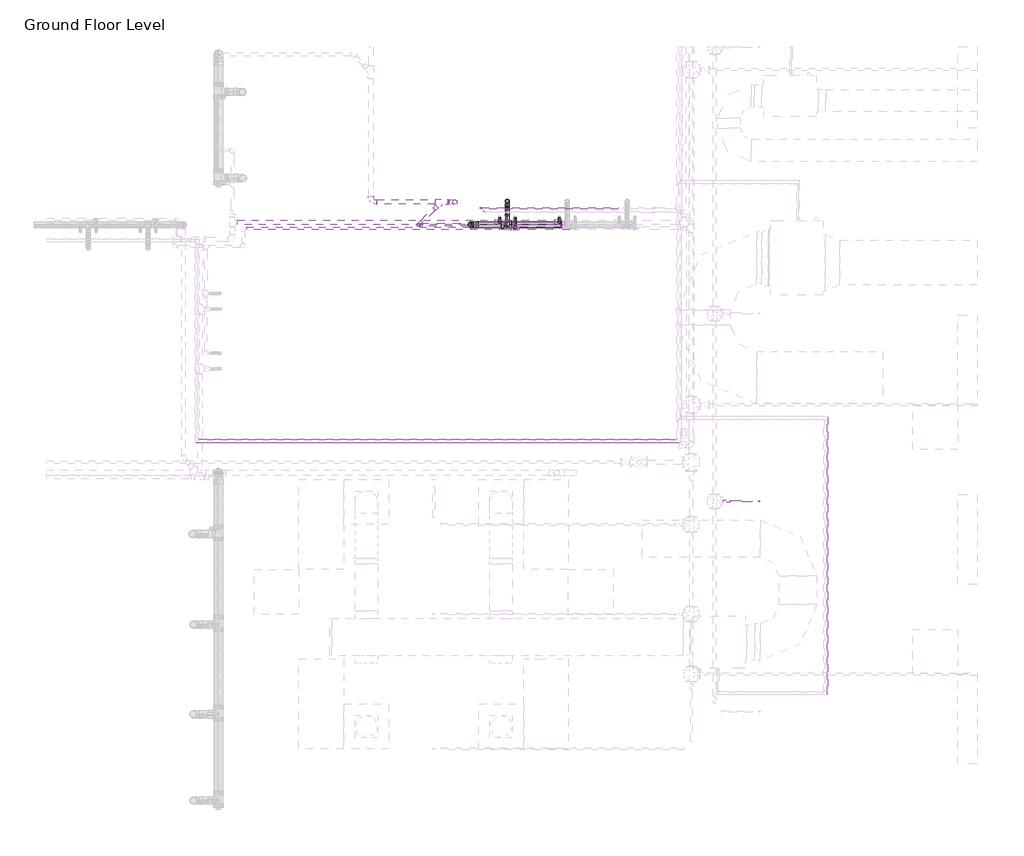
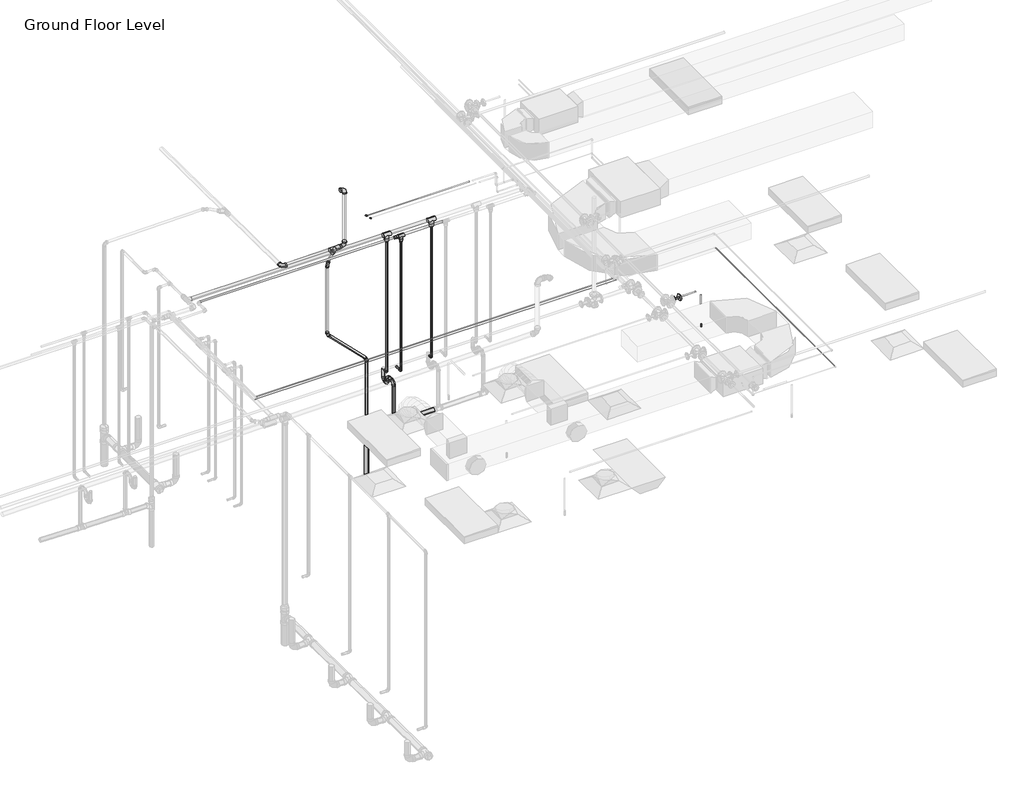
# One storey, part 15 of 66: 32 pipe segments, 28 pipe fittings, 1 fire suppression terminal.
"""IFC4 building model written with IfcOpenShell, lengths in millimetres."""

from ifc_helpers import new_model, si_unit, point, frame, frame_2d, origin, place, context, project, spatial, circle_curve, trimmed, segment, composite_curve, outline, extrude, transform, mapped, element, save
from components import m_sprinkler_pendent_15_mm_pendent_06fcbd8e, m_bend_pvc_sch_40_dwv_standard_1e7bdcc1, m_bend_pvc_sch_40_dwv_standard_776e50c4, m_bend_pvc_sch_40_dwv_standard_aab78995, m_bend_pvc_sch_40_dwv_standard_ec028db0, m_bend_pvc_sch_40_dwv_standard_952ced8a, m_bend_pvc_sch_40_dwv_standard_1eaeee76, m_bend_pvc_sch_40_dwv_standard_35448a73, m_bend_pvc_sch_40_dwv_standard_15ff6dcd, m_elbow_generic_standard_bb5ffebe, m_elbow_generic_standard_f0c60a04, m_reducer_flanged_cs_class_150_standard_d42b2106, m_reducer_pvc_sch_40_dwv_standard_b84ad399, m_reducer_pvc_sch_40_dwv_standard_7e12a7c1, m_tee_pvc_sch_40_standard_19f5fb6d, m_tee_reducing_sanitary_pvc_sch_40_dwv_standard_21d2848c, m_tee_reducing_sanitary_pvc_sch_40_dwv_standard_b574f8c1, standard_b266ab3f, standard_08ff6011, standard_d0d0b892, standard_cd25fed3, standard_83629b21, standard_9d5ac8af

model = new_model("IFC4")

# Units and contexts
model_context = context("Model", 3, world=origin())
ifc_project = project(units=[si_unit("LENGTHUNIT", "METRE", prefix="MILLI")], contexts=[model_context])

# Site, building, storey
site = spatial("IfcSite", under=ifc_project)
building = spatial("IfcBuilding", under=site)
storey = spatial("IfcBuildingStorey", under=building, Name="Ground Floor Level", Elevation=900.0)

# Fire suppression terminal
placement = place(None, origin())
m_sprinkler_pendent_15_mm_pendent_shape = m_sprinkler_pendent_15_mm_pendent_06fcbd8e(model_context)
element("IfcFireSuppressionTerminal", 1, ObjectType="M_Sprinkler - Pendent : 15 mm Pendent", at=placement, inside=storey, context=model_context, shape_type="MappedRepresentation", body=[
    mapped(m_sprinkler_pendent_15_mm_pendent_shape, transform((6592.5481019, -36555.4049984, 3650.0), x_axis=(1.0, 0.0, 0.0), y_axis=(0.0, 1.0, 0.0), z_axis=(0.0, 0.0, 1.0))),
])

# Pipe fittings
m_bend_pvc_sch_40_dwv_standard_shape = m_bend_pvc_sch_40_dwv_standard_1e7bdcc1(model_context)
element("IfcPipeFitting", 2, ObjectType="M_Bend - PVC - Sch 40 - DWV : Standard", at=placement, inside=storey, context=model_context, shape_type="MappedRepresentation", body=[
    mapped(m_bend_pvc_sch_40_dwv_standard_shape, transform((3226.7846789, -32541.2164355, 1350.0), x_axis=(0.0, 0.0, -1.0), y_axis=(0.0, -1.0, 0.0), z_axis=(-1.0, 0.0, 0.0))),
])
m_bend_pvc_sch_40_dwv_standard_2_shape = m_bend_pvc_sch_40_dwv_standard_776e50c4(model_context)
element("IfcPipeFitting", 3, ObjectType="M_Bend - PVC - Sch 40 - DWV : Standard", at=placement, inside=storey, context=model_context, shape_type="MappedRepresentation", body=[
    mapped(m_bend_pvc_sch_40_dwv_standard_2_shape, transform((3226.7846789, -32676.2164355, 1348.45), x_axis=(0.0, -0.9999500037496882, -0.009999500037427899), y_axis=(0.0, -0.009999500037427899, 0.9999500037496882), z_axis=(-1.0, 0.0, 0.0))),
])
element("IfcPipeFitting", 4, ObjectType="M_Bend - PVC - Sch 40 - DWV : Standard", at=placement, inside=storey, context=model_context, shape_type="MappedRepresentation", body=[
    mapped(m_bend_pvc_sch_40_dwv_standard_2_shape, transform((3226.7846789, -32676.2164355, 1490.0), x_axis=(0.0, 0.0, 1.0), y_axis=(0.0, -1.0, 0.0), z_axis=(1.0, 0.0, 0.0))),
])
m_bend_pvc_sch_40_dwv_standard_3_shape = m_bend_pvc_sch_40_dwv_standard_aab78995(model_context)
element("IfcPipeFitting", 5, ObjectType="M_Bend - PVC - Sch 40 - DWV : Standard", at=placement, inside=storey, context=model_context, shape_type="MappedRepresentation", body=[
    mapped(m_bend_pvc_sch_40_dwv_standard_3_shape, transform((3226.7846789, -32858.7119065, 1488.4250453), x_axis=(0.0, -0.999968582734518, -0.007926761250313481), y_axis=(0.0, 0.007926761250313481, -0.999968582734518), z_axis=(1.0, 0.0, 0.0))),
])
m_bend_pvc_sch_40_dwv_standard_4_shape = m_bend_pvc_sch_40_dwv_standard_ec028db0(model_context)
element("IfcPipeFitting", 6, ObjectType="M_Bend - PVC - Sch 40 - DWV : Standard", at=placement, inside=storey, context=model_context, shape_type="MappedRepresentation", body=[
    mapped(m_bend_pvc_sch_40_dwv_standard_4_shape, transform((1404.8829692, -32554.2948449, 4125.20016), x_axis=(0.0, -0.9999500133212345, 0.009998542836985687), y_axis=(0.9999500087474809, 9.997543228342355e-05, 0.00999850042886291), z_axis=(-0.009999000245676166, 0.0099980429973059, 0.9999000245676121))),
])
m_bend_pvc_sch_40_dwv_standard_5_shape = m_bend_pvc_sch_40_dwv_standard_952ced8a(model_context)
element("IfcPipeFitting", 7, ObjectType="M_Bend - PVC - Sch 40 - DWV : Standard", at=placement, inside=storey, context=model_context, shape_type="MappedRepresentation", body=[
    mapped(m_bend_pvc_sch_40_dwv_standard_5_shape, transform((2524.6562734, -32554.2948449, 4136.397893), x_axis=(0.9999500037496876, 0.0, 0.009999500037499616), y_axis=(-0.009999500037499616, 0.0, 0.9999500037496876), z_axis=(0.0, -1.0, 0.0))),
])
m_bend_pvc_sch_40_dwv_standard_6_shape = m_bend_pvc_sch_40_dwv_standard_1eaeee76(model_context)
element("IfcPipeFitting", 8, ObjectType="M_Bend - PVC - Sch 40 - DWV : Standard", at=placement, inside=storey, context=model_context, shape_type="MappedRepresentation", body=[
    mapped(m_bend_pvc_sch_40_dwv_standard_6_shape, transform((2524.640275, -32554.2948449, 5200.0), x_axis=(0.0, 0.0, 1.0), y_axis=(-1.0, 0.0, 0.0), z_axis=(0.0, -1.0, 0.0))),
])
m_bend_pvc_sch_40_dwv_standard_7_shape = m_bend_pvc_sch_40_dwv_standard_35448a73(model_context)
element("IfcPipeFitting", 9, ObjectType="M_Bend - PVC - Sch 40 - DWV : Standard", at=placement, inside=storey, context=model_context, shape_type="MappedRepresentation", body=[
    mapped(m_bend_pvc_sch_40_dwv_standard_7_shape, transform((2740.8154211, -32858.7119065, 2103.6875), x_axis=(0.0, 0.0, 1.0), y_axis=(-1.0, 0.0, 0.0), z_axis=(0.0, -1.0, 0.0))),
])
element("IfcPipeFitting", 10, ObjectType="M_Bend - PVC - Sch 40 - DWV : Standard", at=placement, inside=storey, context=model_context, shape_type="MappedRepresentation", body=[
    mapped(m_bend_pvc_sch_40_dwv_standard_7_shape, transform((2040.8154211, -32858.7119065, 2803.6875), x_axis=(0.0, 0.0, -1.0), y_axis=(1.0, 0.0, 0.0), z_axis=(0.0, -1.0, 0.0))),
])
m_bend_pvc_sch_40_dwv_standard_8_shape = m_bend_pvc_sch_40_dwv_standard_15ff6dcd(model_context)
element("IfcPipeFitting", 11, ObjectType="M_Bend - PVC - Sch 40 - DWV : Standard", at=placement, inside=storey, context=model_context, shape_type="MappedRepresentation", body=[
    mapped(m_bend_pvc_sch_40_dwv_standard_8_shape, transform((2040.8154211, -32858.7119065, 4132.2), x_axis=(0.0, 0.0, 1.0), y_axis=(0.7067664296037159, 0.7074469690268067, 0.0), z_axis=(-0.7074469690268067, 0.7067664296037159, 0.0))),
])
m_elbow_generic_standard_shape = m_elbow_generic_standard_bb5ffebe(model_context)
element("IfcPipeFitting", 12, ObjectType="M_Elbow - Generic : Standard", at=placement, inside=storey, context=model_context, shape_type="MappedRepresentation", body=[
    mapped(m_elbow_generic_standard_shape, transform((2867.2893107, -32638.716218, 4621.4908765), x_axis=(0.0, -1.0, 0.0), y_axis=(1.0, 0.0, 0.0), z_axis=(0.0, 0.0, 1.0))),
])
m_elbow_generic_standard_2_shape = m_elbow_generic_standard_f0c60a04(model_context)
element("IfcPipeFitting", 13, ObjectType="M_Elbow - Generic : Standard", at=placement, inside=storey, context=model_context, shape_type="MappedRepresentation", body=[
    mapped(m_elbow_generic_standard_2_shape, transform((2911.3621079, -32691.5527522, 4591.0863665), x_axis=(0.0, -1.0, 0.0), y_axis=(1.0, 0.0, 0.0), z_axis=(0.0, 0.0, 1.0))),
])
m_reducer_flanged_cs_class_150_standard_shape = m_reducer_flanged_cs_class_150_standard_d42b2106(model_context)
element("IfcPipeFitting", 14, ObjectType="M_Reducer - Flanged - CS - Class 150 : Standard", at=placement, inside=storey, context=model_context, shape_type="MappedRepresentation", body=[
    mapped(m_reducer_flanged_cs_class_150_standard_shape, transform((6097.7664057, -36555.4049984, 4291.2754753), x_axis=(1.0, 0.0, 0.0), y_axis=(0.0, 0.0, -1.0), z_axis=(0.0, 1.0, 0.0))),
])
m_reducer_pvc_sch_40_dwv_standard_shape = m_reducer_pvc_sch_40_dwv_standard_b84ad399(model_context)
element("IfcPipeFitting", 15, ObjectType="M_Reducer - PVC - Sch 40 - DWV : Standard", at=placement, inside=storey, context=model_context, shape_type="MappedRepresentation", body=[
    mapped(m_reducer_pvc_sch_40_dwv_standard_shape, transform((2740.8154211, -32858.7119065, 785.9492095), x_axis=(0.0, 0.0, 1.0), y_axis=(-1.0, 0.0, 0.0), z_axis=(0.0, -1.0, 0.0))),
])
m_reducer_pvc_sch_40_dwv_standard_2_shape = m_reducer_pvc_sch_40_dwv_standard_7e12a7c1(model_context)
element("IfcPipeFitting", 16, ObjectType="M_Reducer - PVC - Sch 40 - DWV : Standard", at=placement, inside=storey, context=model_context, shape_type="MappedRepresentation", body=[
    mapped(m_reducer_pvc_sch_40_dwv_standard_2_shape, transform((2285.3872765, -32613.9038225, 4134.1686229), x_axis=(-0.7067614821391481, -0.707433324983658, -0.0051281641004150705), y_axis=(0.7073812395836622, -0.7067747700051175, 0.009011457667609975), z_axis=(-0.009999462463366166, 0.0027413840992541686, 0.999946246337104))),
])
m_tee_pvc_sch_40_standard_shape = m_tee_pvc_sch_40_standard_19f5fb6d(model_context)
element("IfcPipeFitting", 17, ObjectType="M_Tee - PVC - Sch 40 : Standard", at=placement, inside=storey, context=model_context, shape_type="MappedRepresentation", body=[
    mapped(m_tee_pvc_sch_40_standard_shape, transform((2344.939644, -32554.2948449, 4134.6007267), x_axis=(0.9999500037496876, 0.0, 0.009999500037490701), y_axis=(2.7412470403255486e-05, 0.9999962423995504, -0.002741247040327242), z_axis=(-0.009999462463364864, 0.0027413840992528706, 0.9999462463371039))),
])
m_tee_reducing_sanitary_pvc_sch_40_dwv_standard_shape = m_tee_reducing_sanitary_pvc_sch_40_dwv_standard_21d2848c(model_context)
element("IfcPipeFitting", 18, ObjectType="M_Tee Reducing Sanitary - PVC - Sch 40 - DWV : Standard", at=placement, inside=storey, context=model_context, shape_type="MappedRepresentation", body=[
    mapped(m_tee_reducing_sanitary_pvc_sch_40_dwv_standard_shape, transform((3226.7846789, -32858.7119065, 706.4596926), x_axis=(0.9999500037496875, 0.0, 0.00999950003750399), y_axis=(0.00999950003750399, 0.0, -0.9999500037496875), z_axis=(0.0, 1.0, 0.0))),
])
m_tee_reducing_sanitary_pvc_sch_40_dwv_standard_2_shape = m_tee_reducing_sanitary_pvc_sch_40_dwv_standard_b574f8c1(model_context)
element("IfcPipeFitting", 19, ObjectType="M_Tee Reducing Sanitary - PVC - Sch 40 - DWV : Standard", at=placement, inside=storey, context=model_context, shape_type="MappedRepresentation", body=[
    mapped(m_tee_reducing_sanitary_pvc_sch_40_dwv_standard_2_shape, transform((2740.8154211, -32858.7119065, 701.6), x_axis=(0.0, 0.0, 1.0), y_axis=(-1.0, 0.0, 0.0), z_axis=(0.0, -1.0, 0.0))),
])
standard_shape = standard_b266ab3f(model_context)
element("IfcPipeFitting", 20, ObjectType="M_Elbow - CPVC - Sch 40 : Standard", at=placement, inside=storey, context=model_context, shape_type="MappedRepresentation", body=[
    mapped(standard_shape, transform((3922.4697583, -32824.9853451, 1690.0), x_axis=(0.0, 0.0, -1.0), y_axis=(0.0, 1.0, 0.0), z_axis=(1.0, 0.0, 0.0))),
])
element("IfcPipeFitting", 21, ObjectType="M_Elbow - CPVC - Sch 40 : Standard", at=placement, inside=storey, context=model_context, shape_type="MappedRepresentation", body=[
    mapped(standard_shape, transform((3122.4697583, -32824.9853451, 1690.0), x_axis=(0.0, 0.0, -1.0), y_axis=(0.0, 1.0, 0.0), z_axis=(1.0, 0.0, 0.0))),
])
element("IfcPipeFitting", 22, ObjectType="M_Elbow - CPVC - Sch 40 : Standard", at=placement, inside=storey, context=model_context, shape_type="MappedRepresentation", body=[
    mapped(standard_shape, transform((3331.0995995, -32905.870708, 1690.0), x_axis=(0.0, -1.0, 0.0), y_axis=(0.0, 0.0, 1.0), z_axis=(-1.0, 0.0, 0.0))),
])
standard_2_shape = standard_08ff6011(model_context)
element("IfcPipeFitting", 23, ObjectType="M_Tee - CPVC - Sch 40 : Standard", at=placement, inside=storey, context=model_context, shape_type="MappedRepresentation", body=[
    mapped(standard_2_shape, transform((3331.0995995, -32905.870708, 4250.0), x_axis=(1.0, 0.0, 0.0), y_axis=(0.0, 0.0, 1.0), z_axis=(0.0, -1.0, 0.0))),
])
standard_3_shape = standard_d0d0b892(model_context)
element("IfcPipeFitting", 24, ObjectType="M_Coupling Reducing - CPVC - Sch 40 : Standard", at=placement, inside=storey, context=model_context, shape_type="MappedRepresentation", body=[
    mapped(standard_3_shape, transform((3277.1245995, -32905.870708, 4250.0), x_axis=(-1.0, 0.0, 0.0), y_axis=(0.0, -1.0, 0.0), z_axis=(0.0, 0.0, 1.0))),
])
standard_4_shape = standard_cd25fed3(model_context)
element("IfcPipeFitting", 25, ObjectType="M_Tee - CPVC - Sch 40 : Standard", at=placement, inside=storey, context=model_context, shape_type="MappedRepresentation", body=[
    mapped(standard_4_shape, transform((3922.4697583, -32824.9853451, 4300.0), x_axis=(-1.0, 0.0, 0.0), y_axis=(0.0, 0.0, 1.0), z_axis=(0.0, 1.0, 0.0))),
])
element("IfcPipeFitting", 26, ObjectType="M_Tee - CPVC - Sch 40 : Standard", at=placement, inside=storey, context=model_context, shape_type="MappedRepresentation", body=[
    mapped(standard_4_shape, transform((3122.4697583, -32824.9853451, 4300.0), x_axis=(-1.0, 0.0, 0.0), y_axis=(0.0, 0.0, 1.0), z_axis=(0.0, 1.0, 0.0))),
])
standard_5_shape = standard_83629b21(model_context)
element("IfcPipeFitting", 27, ObjectType="M_Coupling Reducing - CPVC - Sch 40 : Standard", at=placement, inside=storey, context=model_context, shape_type="MappedRepresentation", body=[
    mapped(standard_5_shape, transform((3331.0995995, -32905.870708, 4196.025), x_axis=(0.0, 0.0, -1.0), y_axis=(-1.0, 0.0, 0.0), z_axis=(0.0, 1.0, 0.0))),
])
standard_6_shape = standard_9d5ac8af(model_context)
element("IfcPipeFitting", 28, ObjectType="M_Coupling Reducing - CPVC - Sch 40 : Standard", at=placement, inside=storey, context=model_context, shape_type="MappedRepresentation", body=[
    mapped(standard_6_shape, transform((3922.4697583, -32824.9853451, 4233.325), x_axis=(0.0, 0.0, -1.0), y_axis=(-1.0, 0.0, 0.0), z_axis=(0.0, 1.0, 0.0))),
])
element("IfcPipeFitting", 29, ObjectType="M_Coupling Reducing - CPVC - Sch 40 : Standard", at=placement, inside=storey, context=model_context, shape_type="MappedRepresentation", body=[
    mapped(standard_6_shape, transform((3122.4697583, -32824.9853451, 4233.325), x_axis=(0.0, 0.0, -1.0), y_axis=(-1.0, 0.0, 0.0), z_axis=(0.0, 1.0, 0.0))),
])

# Pipe segments
element("IfcPipeSegment", 30, ObjectType="CPVC", at=placement, inside=storey, context=model_context, shape_type="SweptSolid", body=[
    extrude(outline(composite_curve([segment(trimmed(circle_curve(frame_2d((1690.0, 3922.4697583)), 13.335), [point((1690.0, 3935.8047583))], [point((1703.335, 3922.4697583))], False, "CARTESIAN"), True, "CONTINUOUS"), segment(trimmed(circle_curve(frame_2d((1690.0, 3922.4697583)), 13.335), [point((1703.335, 3922.4697583))], [point((1690.0, 3909.1347583))], False, "CARTESIAN"), True, "CONTINUOUS"), segment(trimmed(circle_curve(frame_2d((1690.0, 3922.4697583)), 13.335), [point((1690.0, 3909.1347583))], [point((1676.665, 3922.4697583))], False, "CARTESIAN"), True, "CONTINUOUS"), segment(trimmed(circle_curve(frame_2d((1690.0, 3922.4697583)), 13.335), [point((1676.665, 3922.4697583))], [point((1690.0, 3935.8047583))], False, "CARTESIAN"), True, "CONTINUOUS")], self_intersect=False)), frame((0.0, -32789.6602951, 0.0), z_axis=(0.0, 1.0, 0.0), x_axis=(0.0, 0.0, 1.0)), (0.0, 0.0, 1.0), 24.8756485),
])
element("IfcPipeSegment", 31, ObjectType="CPVC", at=placement, inside=storey, context=model_context, shape_type="SweptSolid", body=[
    extrude(outline(composite_curve([segment(trimmed(circle_curve(frame_2d((3922.4697583, -32824.9853451)), 13.335), [point((3935.8047583, -32824.9853451))], [point((3922.4697583, -32838.3203451))], False, "CARTESIAN"), True, "CONTINUOUS"), segment(trimmed(circle_curve(frame_2d((3922.4697583, -32824.9853451)), 13.335), [point((3922.4697583, -32838.3203451))], [point((3909.1347583, -32824.9853451))], False, "CARTESIAN"), True, "CONTINUOUS"), segment(trimmed(circle_curve(frame_2d((3922.4697583, -32824.9853451)), 13.335), [point((3909.1347583, -32824.9853451))], [point((3922.4697583, -32811.6503451))], False, "CARTESIAN"), True, "CONTINUOUS"), segment(trimmed(circle_curve(frame_2d((3922.4697583, -32824.9853451)), 13.335), [point((3922.4697583, -32811.6503451))], [point((3935.8047583, -32824.9853451))], False, "CARTESIAN"), True, "CONTINUOUS")], self_intersect=False)), frame((0.0, 0.0, 1725.32505), z_axis=(0.0, 0.0, 1.0), x_axis=(1.0, 0.0, 0.0)), (0.0, 0.0, 1.0), 2431.503075),
])
element("IfcPipeSegment", 32, ObjectType="CPVC", at=placement, inside=storey, context=model_context, shape_type="SweptSolid", body=[
    extrude(outline(composite_curve([segment(trimmed(circle_curve(frame_2d((-32824.9853451, 4300.0)), 30.1625), [point((-32855.1478451, 4300.0))], [point((-32824.9853451, 4330.1625))], False, "CARTESIAN"), True, "CONTINUOUS"), segment(trimmed(circle_curve(frame_2d((-32824.9853451, 4300.0)), 30.1625), [point((-32824.9853451, 4330.1625))], [point((-32794.8228451, 4300.0))], False, "CARTESIAN"), True, "CONTINUOUS"), segment(trimmed(circle_curve(frame_2d((-32824.9853451, 4300.0)), 30.1625), [point((-32794.8228451, 4300.0))], [point((-32824.9853451, 4269.8375))], False, "CARTESIAN"), True, "CONTINUOUS"), segment(trimmed(circle_curve(frame_2d((-32824.9853451, 4300.0)), 30.1625), [point((-32824.9853451, 4269.8375))], [point((-32855.1478451, 4300.0))], False, "CARTESIAN"), True, "CONTINUOUS")], self_intersect=False)), frame((3189.1447583, 0.0, 0.0), z_axis=(1.0, 0.0, 0.0), x_axis=(0.0, 1.0, 0.0)), (0.0, 0.0, 1.0), 666.65),
])
element("IfcPipeSegment", 33, ObjectType="CPVC", at=placement, inside=storey, context=model_context, shape_type="SweptSolid", body=[
    extrude(outline(composite_curve([segment(trimmed(circle_curve(frame_2d((1690.0, 3122.4697583)), 13.335), [point((1690.0, 3135.8047583))], [point((1703.335, 3122.4697583))], False, "CARTESIAN"), True, "CONTINUOUS"), segment(trimmed(circle_curve(frame_2d((1690.0, 3122.4697583)), 13.335), [point((1703.335, 3122.4697583))], [point((1690.0, 3109.1347583))], False, "CARTESIAN"), True, "CONTINUOUS"), segment(trimmed(circle_curve(frame_2d((1690.0, 3122.4697583)), 13.335), [point((1690.0, 3109.1347583))], [point((1676.665, 3122.4697583))], False, "CARTESIAN"), True, "CONTINUOUS"), segment(trimmed(circle_curve(frame_2d((1690.0, 3122.4697583)), 13.335), [point((1676.665, 3122.4697583))], [point((1690.0, 3135.8047583))], False, "CARTESIAN"), True, "CONTINUOUS")], self_intersect=False)), frame((0.0, -32789.6602951, 0.0), z_axis=(0.0, 1.0, 0.0), x_axis=(0.0, 0.0, 1.0)), (0.0, 0.0, 1.0), 24.8756485),
])
element("IfcPipeSegment", 34, ObjectType="CPVC", at=placement, inside=storey, context=model_context, shape_type="SweptSolid", body=[
    extrude(outline(composite_curve([segment(trimmed(circle_curve(frame_2d((3122.4697583, -32824.9853451)), 13.335), [point((3135.8047583, -32824.9853451))], [point((3122.4697583, -32838.3203451))], False, "CARTESIAN"), True, "CONTINUOUS"), segment(trimmed(circle_curve(frame_2d((3122.4697583, -32824.9853451)), 13.335), [point((3122.4697583, -32838.3203451))], [point((3109.1347583, -32824.9853451))], False, "CARTESIAN"), True, "CONTINUOUS"), segment(trimmed(circle_curve(frame_2d((3122.4697583, -32824.9853451)), 13.335), [point((3109.1347583, -32824.9853451))], [point((3122.4697583, -32811.6503451))], False, "CARTESIAN"), True, "CONTINUOUS"), segment(trimmed(circle_curve(frame_2d((3122.4697583, -32824.9853451)), 13.335), [point((3122.4697583, -32811.6503451))], [point((3135.8047583, -32824.9853451))], False, "CARTESIAN"), True, "CONTINUOUS")], self_intersect=False)), frame((0.0, 0.0, 1725.32505), z_axis=(0.0, 0.0, 1.0), x_axis=(1.0, 0.0, 0.0)), (0.0, 0.0, 1.0), 2431.503075),
])
element("IfcPipeSegment", 35, ObjectType="CPVC", at=placement, inside=storey, context=model_context, shape_type="SweptSolid", body=[
    extrude(outline(composite_curve([segment(trimmed(circle_curve(frame_2d((-32824.9853451, 4300.0)), 30.1625), [point((-32855.1478451, 4300.0))], [point((-32824.9853451, 4330.1625))], False, "CARTESIAN"), True, "CONTINUOUS"), segment(trimmed(circle_curve(frame_2d((-32824.9853451, 4300.0)), 30.1625), [point((-32824.9853451, 4330.1625))], [point((-32794.8228451, 4300.0))], False, "CARTESIAN"), True, "CONTINUOUS"), segment(trimmed(circle_curve(frame_2d((-32824.9853451, 4300.0)), 30.1625), [point((-32794.8228451, 4300.0))], [point((-32824.9853451, 4269.8375))], False, "CARTESIAN"), True, "CONTINUOUS"), segment(trimmed(circle_curve(frame_2d((-32824.9853451, 4300.0)), 30.1625), [point((-32824.9853451, 4269.8375))], [point((-32855.1478451, 4300.0))], False, "CARTESIAN"), True, "CONTINUOUS")], self_intersect=False)), frame((-380.5577605, 0.0, 0.0), z_axis=(1.0, 0.0, 0.0), x_axis=(0.0, 1.0, 0.0)), (0.0, 0.0, 1.0), 3436.3525188),
])
element("IfcPipeSegment", 36, ObjectType="CPVC", at=placement, inside=storey, context=model_context, shape_type="SweptSolid", body=[
    extrude(outline(composite_curve([segment(trimmed(circle_curve(frame_2d((1690.0, 3331.0995995)), 13.335), [point((1690.0, 3317.7645995))], [point((1676.665, 3331.0995995))], False, "CARTESIAN"), True, "CONTINUOUS"), segment(trimmed(circle_curve(frame_2d((1690.0, 3331.0995995)), 13.335), [point((1676.665, 3331.0995995))], [point((1690.0, 3344.4345995))], False, "CARTESIAN"), True, "CONTINUOUS"), segment(trimmed(circle_curve(frame_2d((1690.0, 3331.0995995)), 13.335), [point((1690.0, 3344.4345995))], [point((1703.335, 3331.0995995))], False, "CARTESIAN"), True, "CONTINUOUS"), segment(trimmed(circle_curve(frame_2d((1690.0, 3331.0995995)), 13.335), [point((1703.335, 3331.0995995))], [point((1690.0, 3317.7645995))], False, "CARTESIAN"), True, "CONTINUOUS")], self_intersect=False)), frame((0.0, -32870.545658, 0.0), z_axis=(0.0, 1.0, 0.0), x_axis=(0.0, 0.0, 1.0)), (0.0, 0.0, 1.0), 105.7610114),
])
element("IfcPipeSegment", 37, ObjectType="CPVC", at=placement, inside=storey, context=model_context, shape_type="SweptSolid", body=[
    extrude(outline(composite_curve([segment(trimmed(circle_curve(frame_2d((3331.0995995, -32905.870708)), 13.335), [point((3317.7645995, -32905.870708))], [point((3331.0995995, -32892.535708))], False, "CARTESIAN"), True, "CONTINUOUS"), segment(trimmed(circle_curve(frame_2d((3331.0995995, -32905.870708)), 13.335), [point((3331.0995995, -32892.535708))], [point((3344.4345995, -32905.870708))], False, "CARTESIAN"), True, "CONTINUOUS"), segment(trimmed(circle_curve(frame_2d((3331.0995995, -32905.870708)), 13.335), [point((3344.4345995, -32905.870708))], [point((3331.0995995, -32919.205708))], False, "CARTESIAN"), True, "CONTINUOUS"), segment(trimmed(circle_curve(frame_2d((3331.0995995, -32905.870708)), 13.335), [point((3331.0995995, -32919.205708))], [point((3317.7645995, -32905.870708))], False, "CARTESIAN"), True, "CONTINUOUS")], self_intersect=False)), frame((0.0, 0.0, 1725.32505), z_axis=(0.0, 0.0, 1.0), x_axis=(1.0, 0.0, 0.0)), (0.0, 0.0, 1.0), 2407.883075),
])
element("IfcPipeSegment", 38, ObjectType="CPVC", at=placement, inside=storey, context=model_context, shape_type="SweptSolid", body=[
    extrude(outline(composite_curve([segment(trimmed(circle_curve(frame_2d((-32905.870708, 4250.0)), 16.7005), [point((-32889.170208, 4250.0))], [point((-32905.870708, 4233.2995))], False, "CARTESIAN"), True, "CONTINUOUS"), segment(trimmed(circle_curve(frame_2d((-32905.870708, 4250.0)), 16.7005), [point((-32905.870708, 4233.2995))], [point((-32922.571208, 4250.0))], False, "CARTESIAN"), True, "CONTINUOUS"), segment(trimmed(circle_curve(frame_2d((-32905.870708, 4250.0)), 16.7005), [point((-32922.571208, 4250.0))], [point((-32905.870708, 4266.7005))], False, "CARTESIAN"), True, "CONTINUOUS"), segment(trimmed(circle_curve(frame_2d((-32905.870708, 4250.0)), 16.7005), [point((-32905.870708, 4266.7005))], [point((-32889.170208, 4250.0))], False, "CARTESIAN"), True, "CONTINUOUS")], self_intersect=False)), frame((-256.1798698, 0.0, 0.0), z_axis=(1.0, 0.0, 0.0), x_axis=(0.0, 1.0, 0.0)), (0.0, 0.0, 1.0), 3467.1855943),
])
element("IfcPipeSegment", 39, ObjectType="CPVC", at=placement, inside=storey, context=model_context, shape_type="SweptSolid", body=[
    extrude(outline(composite_curve([segment(trimmed(circle_curve(frame_2d((-32905.870708, 4250.0)), 21.082), [point((-32884.788708, 4250.0))], [point((-32905.870708, 4228.918))], False, "CARTESIAN"), True, "CONTINUOUS"), segment(trimmed(circle_curve(frame_2d((-32905.870708, 4250.0)), 21.082), [point((-32905.870708, 4228.918))], [point((-32926.952708, 4250.0))], False, "CARTESIAN"), True, "CONTINUOUS"), segment(trimmed(circle_curve(frame_2d((-32905.870708, 4250.0)), 21.082), [point((-32926.952708, 4250.0))], [point((-32905.870708, 4271.082))], False, "CARTESIAN"), True, "CONTINUOUS"), segment(trimmed(circle_curve(frame_2d((-32905.870708, 4250.0)), 21.082), [point((-32905.870708, 4271.082))], [point((-32884.788708, 4250.0))], False, "CARTESIAN"), True, "CONTINUOUS")], self_intersect=False)), frame((3385.0745995, 0.0, 0.0), z_axis=(1.0, 0.0, 0.0), x_axis=(0.0, 1.0, 0.0)), (0.0, 0.0, 1.0), 692.05),
])
element("IfcPipeSegment", 40, ObjectType="Copper", at=placement, inside=storey, context=model_context, shape_type="SweptSolid", body=[
    extrude(outline(composite_curve([segment(trimmed(circle_curve(frame_2d((-35730.466218, 4390.0)), 6.5), [point((-35723.966218, 4390.0))], [point((-35730.466218, 4383.5))], False, "CARTESIAN"), True, "CONTINUOUS"), segment(trimmed(circle_curve(frame_2d((-35730.466218, 4390.0)), 6.5), [point((-35730.466218, 4383.5))], [point((-35736.966218, 4390.0))], False, "CARTESIAN"), True, "CONTINUOUS"), segment(trimmed(circle_curve(frame_2d((-35730.466218, 4390.0)), 6.5), [point((-35736.966218, 4390.0))], [point((-35730.466218, 4396.5))], False, "CARTESIAN"), True, "CONTINUOUS"), segment(trimmed(circle_curve(frame_2d((-35730.466218, 4390.0)), 6.5), [point((-35730.466218, 4396.5))], [point((-35723.966218, 4390.0))], False, "CARTESIAN"), True, "CONTINUOUS")], self_intersect=False)), frame((-882.8173173, 0.0, 0.0), z_axis=(1.0, 0.0, 0.0), x_axis=(0.0, 1.0, 0.0)), (0.0, 0.0, 1.0), 6366.425),
])
element("IfcPipeSegment", 41, ObjectType="Copper", at=placement, inside=storey, context=model_context, shape_type="SweptSolid", body=[
    extrude(outline(composite_curve([segment(trimmed(circle_curve(frame_2d((-35773.5402522, 4377.5)), 3.35), [point((-35770.1902522, 4377.5))], [point((-35773.5402522, 4374.15))], False, "CARTESIAN"), True, "CONTINUOUS"), segment(trimmed(circle_curve(frame_2d((-35773.5402522, 4377.5)), 3.35), [point((-35773.5402522, 4374.15))], [point((-35776.8902522, 4377.5))], False, "CARTESIAN"), True, "CONTINUOUS"), segment(trimmed(circle_curve(frame_2d((-35773.5402522, 4377.5)), 3.35), [point((-35776.8902522, 4377.5))], [point((-35773.5402522, 4380.85))], False, "CARTESIAN"), True, "CONTINUOUS"), segment(trimmed(circle_curve(frame_2d((-35773.5402522, 4377.5)), 3.35), [point((-35773.5402522, 4380.85))], [point((-35770.1902522, 4377.5))], False, "CARTESIAN"), True, "CONTINUOUS")], self_intersect=False)), frame((-929.8720887, 0.0, 0.0), z_axis=(1.0, 0.0, 0.0), x_axis=(0.0, 1.0, 0.0)), (0.0, 0.0, 1.0), 6462.725),
])
element("IfcPipeSegment", 42, ObjectType="Copper", at=placement, inside=storey, context=model_context, shape_type="SweptSolid", body=[
    extrude(outline(composite_curve([segment(trimmed(circle_curve(frame_2d((4084.9, 7503.9904113)), 3.35), [point((4084.9, 7500.6404113))], [point((4081.55, 7503.9904113))], False, "CARTESIAN"), True, "CONTINUOUS"), segment(trimmed(circle_curve(frame_2d((4084.9, 7503.9904113)), 3.35), [point((4081.55, 7503.9904113))], [point((4084.9, 7507.3404113))], False, "CARTESIAN"), True, "CONTINUOUS"), segment(trimmed(circle_curve(frame_2d((4084.9, 7503.9904113)), 3.35), [point((4084.9, 7507.3404113))], [point((4088.25, 7503.9904113))], False, "CARTESIAN"), True, "CONTINUOUS"), segment(trimmed(circle_curve(frame_2d((4084.9, 7503.9904113)), 3.35), [point((4088.25, 7503.9904113))], [point((4084.9, 7500.6404113))], False, "CARTESIAN"), True, "CONTINUOUS")], self_intersect=False)), frame((0.0, -39129.4634836, 0.0), z_axis=(0.0, 1.0, 0.0), x_axis=(0.0, 0.0, 1.0)), (0.0, 0.0, 1.0), 3697.725),
])
element("IfcPipeSegment", 43, ObjectType="Copper", at=placement, inside=storey, context=model_context, shape_type="SweptSolid", body=[
    extrude(outline(composite_curve([segment(trimmed(circle_curve(frame_2d((-32638.716218, 4621.4908765)), 8.1), [point((-32646.816218, 4621.4908765))], [point((-32638.716218, 4629.5908765))], False, "CARTESIAN"), True, "CONTINUOUS"), segment(trimmed(circle_curve(frame_2d((-32638.716218, 4621.4908765)), 8.1), [point((-32638.716218, 4629.5908765))], [point((-32630.616218, 4621.4908765))], False, "CARTESIAN"), True, "CONTINUOUS"), segment(trimmed(circle_curve(frame_2d((-32638.716218, 4621.4908765)), 8.1), [point((-32630.616218, 4621.4908765))], [point((-32638.716218, 4613.3908765))], False, "CARTESIAN"), True, "CONTINUOUS"), segment(trimmed(circle_curve(frame_2d((-32638.716218, 4621.4908765)), 8.1), [point((-32638.716218, 4613.3908765))], [point((-32646.816218, 4621.4908765))], False, "CARTESIAN"), True, "CONTINUOUS")], self_intersect=False)), frame((2883.1643107, 0.0, 0.0), z_axis=(1.0, 0.0, 0.0), x_axis=(0.0, 1.0, 0.0)), (0.0, 0.0, 1.0), 1826.6062839),
])
element("IfcPipeSegment", 44, ObjectType="PVC - DWV", at=placement, inside=storey, context=model_context, shape_type="SweptSolid", body=[
    extrude(outline(composite_curve([segment(trimmed(circle_curve(frame_2d((0.0, -36.5125)), 36.5125), [point((0.0, 0.0))], [point((36.5125, -36.5125))], False, "CARTESIAN"), True, "CONTINUOUS"), segment(trimmed(circle_curve(frame_2d((0.0, -36.5125)), 36.5125), [point((36.5125, -36.5125))], [point((0.0, -73.025))], False, "CARTESIAN"), True, "CONTINUOUS"), segment(trimmed(circle_curve(frame_2d((0.0, -36.5125)), 36.5125), [point((0.0, -73.025))], [point((-36.5125, -36.5125))], False, "CARTESIAN"), True, "CONTINUOUS"), segment(trimmed(circle_curve(frame_2d((0.0, -36.5125)), 36.5125), [point((-36.5125, -36.5125))], [point((0.0, 0.0))], False, "CARTESIAN"), True, "CONTINUOUS")], self_intersect=False)), frame((2840.7783918, -32822.1994065, 702.5996297), z_axis=(0.9999500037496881, 0.0, 0.0099995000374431), x_axis=(0.0099995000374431, 0.0, -0.9999500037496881)), (0.0, 0.0, 1.0), 306.9624682),
])
element("IfcPipeSegment", 45, ObjectType="PVC - DWV", at=placement, inside=storey, context=model_context, shape_type="SweptSolid", body=[
    extrude(outline(composite_curve([segment(trimmed(circle_curve(frame_2d((3226.7846789, -32541.2164355)), 24.13), [point((3250.9146789, -32541.2164355))], [point((3226.7846789, -32565.3464355))], False, "CARTESIAN"), True, "CONTINUOUS"), segment(trimmed(circle_curve(frame_2d((3226.7846789, -32541.2164355)), 24.13), [point((3226.7846789, -32565.3464355))], [point((3202.6546789, -32541.2164355))], False, "CARTESIAN"), True, "CONTINUOUS"), segment(trimmed(circle_curve(frame_2d((3226.7846789, -32541.2164355)), 24.13), [point((3202.6546789, -32541.2164355))], [point((3226.7846789, -32517.0864355))], False, "CARTESIAN"), True, "CONTINUOUS"), segment(trimmed(circle_curve(frame_2d((3226.7846789, -32541.2164355)), 24.13), [point((3226.7846789, -32517.0864355))], [point((3250.9146789, -32541.2164355))], False, "CARTESIAN"), True, "CONTINUOUS")], self_intersect=False)), frame((0.0, 0.0, 1411.8998), z_axis=(0.0, 0.0, 1.0), x_axis=(1.0, 0.0, 0.0)), (0.0, 0.0, 1.0), 138.1002),
])
element("IfcPipeSegment", 46, ObjectType="PVC - DWV", at=placement, inside=storey, context=model_context, shape_type="SweptSolid", body=[
    extrude(outline(composite_curve([segment(trimmed(circle_curve(frame_2d((0.0, -24.13)), 24.13), [point((-24.13, -24.13))], [point((0.0, 0.0))], False, "CARTESIAN"), True, "CONTINUOUS"), segment(trimmed(circle_curve(frame_2d((0.0, -24.13)), 24.13), [point((0.0, 0.0))], [point((24.13, -24.13))], False, "CARTESIAN"), True, "CONTINUOUS"), segment(trimmed(circle_curve(frame_2d((0.0, -24.13)), 24.13), [point((24.13, -24.13))], [point((0.0, -48.2599999))], False, "CARTESIAN"), True, "CONTINUOUS"), segment(trimmed(circle_curve(frame_2d((0.0, -24.13)), 24.13), [point((0.0, -48.2599999))], [point((-24.13, -24.13))], False, "CARTESIAN"), True, "CONTINUOUS")], self_intersect=False)), frame((3226.7846789, -32614.0784423, 1324.9401735), z_axis=(0.0, 0.9999500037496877, 0.009999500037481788), x_axis=(1.0, 0.0, 0.0)), (0.0, 0.0, 1.0), 11.2091497),
])
element("IfcPipeSegment", 47, ObjectType="PVC - DWV", at=placement, inside=storey, context=model_context, shape_type="SweptSolid", body=[
    extrude(outline(composite_curve([segment(trimmed(circle_curve(frame_2d((3226.7846789, -32676.2164355)), 24.13), [point((3202.6546789, -32676.2164355))], [point((3226.7846789, -32652.0864355))], False, "CARTESIAN"), True, "CONTINUOUS"), segment(trimmed(circle_curve(frame_2d((3226.7846789, -32676.2164355)), 24.13), [point((3226.7846789, -32652.0864355))], [point((3250.9146789, -32676.2164355))], False, "CARTESIAN"), True, "CONTINUOUS"), segment(trimmed(circle_curve(frame_2d((3226.7846789, -32676.2164355)), 24.13), [point((3250.9146789, -32676.2164355))], [point((3226.7846789, -32700.3464355))], False, "CARTESIAN"), True, "CONTINUOUS"), segment(trimmed(circle_curve(frame_2d((3226.7846789, -32676.2164355)), 24.13), [point((3226.7846789, -32700.3464355))], [point((3202.6546789, -32676.2164355))], False, "CARTESIAN"), True, "CONTINUOUS")], self_intersect=False)), frame((0.0, 0.0, 1410.3498), z_axis=(0.0, 0.0, 1.0), x_axis=(1.0, 0.0, 0.0)), (0.0, 0.0, 1.0), 17.7504),
])
element("IfcPipeSegment", 48, ObjectType="PVC - DWV", at=placement, inside=storey, context=model_context, shape_type="SweptSolid", body=[
    extrude(outline(composite_curve([segment(trimmed(circle_curve(frame_2d((0.0, -24.13)), 24.13), [point((-24.13, -24.13))], [point((0.0, 0.0))], False, "CARTESIAN"), True, "CONTINUOUS"), segment(trimmed(circle_curve(frame_2d((0.0, -24.13)), 24.13), [point((0.0, 0.0))], [point((24.13, -24.13))], False, "CARTESIAN"), True, "CONTINUOUS"), segment(trimmed(circle_curve(frame_2d((0.0, -24.13)), 24.13), [point((24.13, -24.13))], [point((0.0, -48.26))], False, "CARTESIAN"), True, "CONTINUOUS"), segment(trimmed(circle_curve(frame_2d((0.0, -24.13)), 24.13), [point((0.0, -48.26))], [point((-24.13, -24.13))], False, "CARTESIAN"), True, "CONTINUOUS")], self_intersect=False)), frame((3226.7846789, -32796.6227785, 1464.7864683), z_axis=(0.0, 0.9999685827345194, 0.007926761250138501), x_axis=(1.0, 0.0, 0.0)), (0.0, 0.0, 1.0), 58.7027548),
])
element("IfcPipeSegment", 49, ObjectType="PVC - DWV", at=placement, inside=storey, context=model_context, shape_type="SweptSolid", body=[
    extrude(outline(composite_curve([segment(trimmed(circle_curve(frame_2d((3226.7846789, -32858.7119065)), 24.13), [point((3202.6546789, -32858.7119065))], [point((3226.7846789, -32834.5819065))], False, "CARTESIAN"), True, "CONTINUOUS"), segment(trimmed(circle_curve(frame_2d((3226.7846789, -32858.7119065)), 24.13), [point((3226.7846789, -32834.5819065))], [point((3250.9146789, -32858.7119065))], False, "CARTESIAN"), True, "CONTINUOUS"), segment(trimmed(circle_curve(frame_2d((3226.7846789, -32858.7119065)), 24.13), [point((3250.9146789, -32858.7119065))], [point((3226.7846789, -32882.8419065))], False, "CARTESIAN"), True, "CONTINUOUS"), segment(trimmed(circle_curve(frame_2d((3226.7846789, -32858.7119065)), 24.13), [point((3226.7846789, -32882.8419065))], [point((3202.6546789, -32858.7119065))], False, "CARTESIAN"), True, "CONTINUOUS")], self_intersect=False)), frame((0.0, 0.0, 787.3071488), z_axis=(0.0, 0.0, 1.0), x_axis=(1.0, 0.0, 0.0)), (0.0, 0.0, 1.0), 639.2180965),
])
element("IfcPipeSegment", 50, ObjectType="PVC - DWV", at=placement, inside=storey, context=model_context, shape_type="SweptSolid", body=[
    extrude(outline(composite_curve([segment(trimmed(circle_curve(frame_2d((0.0, -36.5125)), 36.5125), [point((0.0, 0.0))], [point((36.5125, -36.5125))], False, "CARTESIAN"), True, "CONTINUOUS"), segment(trimmed(circle_curve(frame_2d((0.0, -36.5125)), 36.5125), [point((36.5125, -36.5125))], [point((0.0, -73.025))], False, "CARTESIAN"), True, "CONTINUOUS"), segment(trimmed(circle_curve(frame_2d((0.0, -36.5125)), 36.5125), [point((0.0, -73.025))], [point((-36.5125, -36.5125))], False, "CARTESIAN"), True, "CONTINUOUS"), segment(trimmed(circle_curve(frame_2d((0.0, -36.5125)), 36.5125), [point((-36.5125, -36.5125))], [point((0.0, 0.0))], False, "CARTESIAN"), True, "CONTINUOUS")], self_intersect=False)), frame((3286.2674481, -32822.1994065, 707.0545203), z_axis=(0.9999500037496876, 0.0, 0.00999950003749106), x_axis=(0.00999950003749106, 0.0, -0.9999500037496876)), (0.0, 0.0, 1.0), 661.4911369),
])
element("IfcPipeSegment", 51, ObjectType="PVC - DWV", at=placement, inside=storey, context=model_context, shape_type="SweptSolid", body=[
    extrude(outline(composite_curve([segment(trimmed(circle_curve(frame_2d((2740.8154211, -32858.7119065)), 36.5125), [point((2777.3279211, -32858.7119065))], [point((2740.8154211, -32895.2244065))], False, "CARTESIAN"), True, "CONTINUOUS"), segment(trimmed(circle_curve(frame_2d((2740.8154211, -32858.7119065)), 36.5125), [point((2740.8154211, -32895.2244065))], [point((2704.3029211, -32858.7119065))], False, "CARTESIAN"), True, "CONTINUOUS"), segment(trimmed(circle_curve(frame_2d((2740.8154211, -32858.7119065)), 36.5125), [point((2704.3029211, -32858.7119065))], [point((2740.8154211, -32822.1994065))], False, "CARTESIAN"), True, "CONTINUOUS"), segment(trimmed(circle_curve(frame_2d((2740.8154211, -32858.7119065)), 36.5125), [point((2740.8154211, -32822.1994065))], [point((2777.3279211, -32858.7119065))], False, "CARTESIAN"), True, "CONTINUOUS")], self_intersect=False)), frame((0.0, 0.0, -100.0), z_axis=(0.0, 0.0, 1.0), x_axis=(1.0, 0.0, 0.0)), (0.0, 0.0, 1.0), 703.7868813),
])
element("IfcPipeSegment", 52, ObjectType="PVC - DWV", at=placement, inside=storey, context=model_context, shape_type="SweptSolid", body=[
    extrude(outline(composite_curve([segment(trimmed(circle_curve(frame_2d((0.0, 30.1625)), 30.1625), [point((0.0, 0.0))], [point((-30.1625, 30.1625))], False, "CARTESIAN"), True, "CONTINUOUS"), segment(trimmed(circle_curve(frame_2d((0.0, 30.1625)), 30.1625), [point((-30.1625, 30.1625))], [point((0.0, 60.325))], False, "CARTESIAN"), True, "CONTINUOUS"), segment(trimmed(circle_curve(frame_2d((0.0, 30.1625)), 30.1625), [point((0.0, 60.325))], [point((30.1625, 30.1625))], False, "CARTESIAN"), True, "CONTINUOUS"), segment(trimmed(circle_curve(frame_2d((0.0, 30.1625)), 30.1625), [point((30.1625, 30.1625))], [point((0.0, 0.0))], False, "CARTESIAN"), True, "CONTINUOUS")], self_intersect=False)), frame((2429.196344, -32584.4573449, 4135.4432937), z_axis=(0.9999500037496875, 0.0, 0.009999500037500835), x_axis=(0.009999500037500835, 0.0, -0.9999500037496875)), (0.0, 0.0, 1.0), 17.6645023),
])
element("IfcPipeSegment", 53, ObjectType="PVC - DWV", at=placement, inside=storey, context=model_context, shape_type="SweptSolid", body=[
    extrude(outline(composite_curve([segment(trimmed(circle_curve(frame_2d((2740.8154211, -32858.7119065)), 36.5125), [point((2704.3029211, -32858.7119065))], [point((2740.8154211, -32822.1994065))], False, "CARTESIAN"), True, "CONTINUOUS"), segment(trimmed(circle_curve(frame_2d((2740.8154211, -32858.7119065)), 36.5125), [point((2740.8154211, -32822.1994065))], [point((2777.3279211, -32858.7119065))], False, "CARTESIAN"), True, "CONTINUOUS"), segment(trimmed(circle_curve(frame_2d((2740.8154211, -32858.7119065)), 36.5125), [point((2777.3279211, -32858.7119065))], [point((2740.8154211, -32895.2244065))], False, "CARTESIAN"), True, "CONTINUOUS"), segment(trimmed(circle_curve(frame_2d((2740.8154211, -32858.7119065)), 36.5125), [point((2740.8154211, -32895.2244065))], [point((2704.3029211, -32858.7119065))], False, "CARTESIAN"), True, "CONTINUOUS")], self_intersect=False)), frame((0.0, 0.0, 775.9492095), z_axis=(0.0, 0.0, 1.0), x_axis=(1.0, 0.0, 0.0)), (0.0, 0.0, 1.0), 10.0),
])
element("IfcPipeSegment", 54, ObjectType="PVC - DWV", at=placement, inside=storey, context=model_context, shape_type="SweptSolid", body=[
    extrude(outline(composite_curve([segment(trimmed(circle_curve(frame_2d((2040.8154211, -32858.7119065)), 21.082), [point((2019.7334211, -32858.7119065))], [point((2040.8154211, -32837.6299065))], False, "CARTESIAN"), True, "CONTINUOUS"), segment(trimmed(circle_curve(frame_2d((2040.8154211, -32858.7119065)), 21.082), [point((2040.8154211, -32837.6299065))], [point((2061.8974211, -32858.7119065))], False, "CARTESIAN"), True, "CONTINUOUS"), segment(trimmed(circle_curve(frame_2d((2040.8154211, -32858.7119065)), 21.082), [point((2061.8974211, -32858.7119065))], [point((2040.8154211, -32879.7939065))], False, "CARTESIAN"), True, "CONTINUOUS"), segment(trimmed(circle_curve(frame_2d((2040.8154211, -32858.7119065)), 21.082), [point((2040.8154211, -32879.7939065))], [point((2019.7334211, -32858.7119065))], False, "CARTESIAN"), True, "CONTINUOUS")], self_intersect=False)), frame((0.0, 0.0, 2846.5373), z_axis=(0.0, 0.0, 1.0), x_axis=(1.0, 0.0, 0.0)), (0.0, 0.0, 1.0), 1228.5127),
])
element("IfcPipeSegment", 55, ObjectType="PVC - DWV", at=placement, inside=storey, context=model_context, shape_type="SweptSolid", body=[
    extrude(outline(composite_curve([segment(trimmed(circle_curve(frame_2d((0.0, 21.082)), 21.082), [point((21.0816221, 20.9557578))], [point((-0.1262423, 0.000378))], False, "CARTESIAN"), True, "CONTINUOUS"), segment(trimmed(circle_curve(frame_2d((0.0, 21.082)), 21.082), [point((-0.1262423, 0.000378))], [point((-21.081622, 21.2082422))], False, "CARTESIAN"), True, "CONTINUOUS"), segment(trimmed(circle_curve(frame_2d((0.0, 21.082)), 21.082), [point((-21.081622, 21.2082422))], [point((0.1262422, 42.163622))], False, "CARTESIAN"), True, "CONTINUOUS"), segment(trimmed(circle_curve(frame_2d((0.0, 21.082)), 21.082), [point((0.1262422, 42.163622))], [point((21.0816221, 20.9557578))], False, "CARTESIAN"), True, "CONTINUOUS")], self_intersect=False)), frame((2081.2065914, -32818.4604636, 4153.5743147), z_axis=(0.7067527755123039, 0.7074352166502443, 0.005994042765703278), x_axis=(0.7074606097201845, -0.7067274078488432, -0.005988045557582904)), (0.0, 0.0, 1.0), 236.7434543),
])
element("IfcPipeSegment", 56, ObjectType="PVC - DWV", at=placement, inside=storey, context=model_context, shape_type="SweptSolid", body=[
    extrude(outline(composite_curve([segment(trimmed(circle_curve(frame_2d((0.0, 30.1625)), 30.1625), [point((-30.1625, 30.1625))], [point((0.0, 60.325))], False, "CARTESIAN"), True, "CONTINUOUS"), segment(trimmed(circle_curve(frame_2d((0.0, 30.1625)), 30.1625), [point((0.0, 60.325))], [point((30.1625, 30.1625))], False, "CARTESIAN"), True, "CONTINUOUS"), segment(trimmed(circle_curve(frame_2d((0.0, 30.1625)), 30.1625), [point((30.1625, 30.1625))], [point((0.0, 0.0))], False, "CARTESIAN"), True, "CONTINUOUS"), segment(trimmed(circle_curve(frame_2d((0.0, 30.1625)), 30.1625), [point((0.0, 0.0))], [point((-30.1625, 30.1625))], False, "CARTESIAN"), True, "CONTINUOUS")], self_intersect=False)), frame((2524.6562734, -32584.4573449, 4214.198093), z_axis=(-1.7619350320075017e-05, 0.0, 0.9999999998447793), x_axis=(0.9999999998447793, 0.0, 1.7619350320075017e-05)), (0.0, 0.0, 1.0), 908.0017071),
])
element("IfcPipeSegment", 57, ObjectType="PVC - DWV", at=placement, inside=storey, context=model_context, shape_type="SweptSolid", body=[
    extrude(outline(composite_curve([segment(trimmed(circle_curve(frame_2d((2740.8154211, -32858.7119065)), 21.082), [point((2719.7334211, -32858.7119065))], [point((2740.8154211, -32837.6299065))], False, "CARTESIAN"), True, "CONTINUOUS"), segment(trimmed(circle_curve(frame_2d((2740.8154211, -32858.7119065)), 21.082), [point((2740.8154211, -32837.6299065))], [point((2761.8974211, -32858.7119065))], False, "CARTESIAN"), True, "CONTINUOUS"), segment(trimmed(circle_curve(frame_2d((2740.8154211, -32858.7119065)), 21.082), [point((2761.8974211, -32858.7119065))], [point((2740.8154211, -32879.7939065))], False, "CARTESIAN"), True, "CONTINUOUS"), segment(trimmed(circle_curve(frame_2d((2740.8154211, -32858.7119065)), 21.082), [point((2740.8154211, -32879.7939065))], [point((2719.7334211, -32858.7119065))], False, "CARTESIAN"), True, "CONTINUOUS")], self_intersect=False)), frame((0.0, 0.0, 852.3553033), z_axis=(0.0, 0.0, 1.0), x_axis=(1.0, 0.0, 0.0)), (0.0, 0.0, 1.0), 1208.4823967),
])
element("IfcPipeSegment", 58, ObjectType="PVC - DWV", at=placement, inside=storey, context=model_context, shape_type="SweptSolid", body=[
    extrude(outline(composite_curve([segment(trimmed(circle_curve(frame_2d((0.0, 21.082)), 21.082), [point((0.0, 42.164))], [point((21.082, 21.082))], False, "CARTESIAN"), True, "CONTINUOUS"), segment(trimmed(circle_curve(frame_2d((0.0, 21.082)), 21.082), [point((21.082, 21.082))], [point((0.0, 0.0))], False, "CARTESIAN"), True, "CONTINUOUS"), segment(trimmed(circle_curve(frame_2d((0.0, 21.082)), 21.082), [point((0.0, 0.0))], [point((-21.082, 21.082))], False, "CARTESIAN"), True, "CONTINUOUS"), segment(trimmed(circle_curve(frame_2d((0.0, 21.082)), 21.082), [point((-21.082, 21.082))], [point((0.0, 42.164))], False, "CARTESIAN"), True, "CONTINUOUS")], self_intersect=False)), frame((2710.5160369, -32879.7939065, 2133.9868842), z_axis=(-0.7071067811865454, 0.0, 0.7071067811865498), x_axis=(0.7071067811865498, 0.0, 0.7071067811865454)), (0.0, 0.0, 1.0), 904.2498937),
])
element("IfcPipeSegment", 59, ObjectType="PVC - DWV", at=placement, inside=storey, context=model_context, shape_type="SweptSolid", body=[
    extrude(outline(composite_curve([segment(trimmed(circle_curve(frame_2d((0.0, 30.1625)), 30.1625), [point((0.0, 0.0))], [point((-30.1625, 30.1625))], False, "CARTESIAN"), True, "CONTINUOUS"), segment(trimmed(circle_curve(frame_2d((0.0, 30.1625)), 30.1625), [point((-30.1625, 30.1625))], [point((0.0, 60.325))], False, "CARTESIAN"), True, "CONTINUOUS"), segment(trimmed(circle_curve(frame_2d((0.0, 30.1625)), 30.1625), [point((0.0, 60.325))], [point((30.1625, 30.1625))], False, "CARTESIAN"), True, "CONTINUOUS"), segment(trimmed(circle_curve(frame_2d((0.0, 30.1625)), 30.1625), [point((30.1625, 30.1625))], [point((0.0, 0.0))], False, "CARTESIAN"), True, "CONTINUOUS")], self_intersect=False)), frame((1482.6792795, -32584.4573449, 4125.9781231), z_axis=(0.9999500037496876, 0.0, 0.009999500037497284), x_axis=(0.009999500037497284, 0.0, -0.9999500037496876)), (0.0, 0.0, 1.0), 778.0425639),
])
element("IfcPipeSegment", 60, ObjectType="Steel flanged", at=placement, inside=storey, context=model_context, shape_type="SweptSolid", body=[
    extrude(outline(composite_curve([segment(trimmed(circle_curve(frame_2d((6592.5481019, -36555.4049984)), 10.668), [point((6581.8801019, -36555.4049984))], [point((6592.5481019, -36544.7369984))], False, "CARTESIAN"), True, "CONTINUOUS"), segment(trimmed(circle_curve(frame_2d((6592.5481019, -36555.4049984)), 10.668), [point((6592.5481019, -36544.7369984))], [point((6603.2161019, -36555.4049984))], False, "CARTESIAN"), True, "CONTINUOUS"), segment(trimmed(circle_curve(frame_2d((6592.5481019, -36555.4049984)), 10.668), [point((6603.2161019, -36555.4049984))], [point((6592.5481019, -36566.0729984))], False, "CARTESIAN"), True, "CONTINUOUS"), segment(trimmed(circle_curve(frame_2d((6592.5481019, -36555.4049984)), 10.668), [point((6592.5481019, -36566.0729984))], [point((6581.8801019, -36555.4049984))], False, "CARTESIAN"), True, "CONTINUOUS")], self_intersect=False)), frame((0.0, 0.0, 3650.0), z_axis=(0.0, 0.0, 1.0), x_axis=(1.0, 0.0, 0.0)), (0.0, 0.0, 1.0), 548.2668816),
])
element("IfcPipeSegment", 61, ObjectType="Steel flanged", at=placement, inside=storey, context=model_context, shape_type="SweptSolid", body=[
    extrude(outline(composite_curve([segment(trimmed(circle_curve(frame_2d((-36555.4049984, 4291.2754753)), 10.668), [point((-36544.7369984, 4291.2754753))], [point((-36555.4049984, 4280.6074753))], False, "CARTESIAN"), True, "CONTINUOUS"), segment(trimmed(circle_curve(frame_2d((-36555.4049984, 4291.2754753)), 10.668), [point((-36555.4049984, 4280.6074753))], [point((-36566.0729984, 4291.2754753))], False, "CARTESIAN"), True, "CONTINUOUS"), segment(trimmed(circle_curve(frame_2d((-36555.4049984, 4291.2754753)), 10.668), [point((-36566.0729984, 4291.2754753))], [point((-36555.4049984, 4301.9434753))], False, "CARTESIAN"), True, "CONTINUOUS"), segment(trimmed(circle_curve(frame_2d((-36555.4049984, 4291.2754753)), 10.668), [point((-36555.4049984, 4301.9434753))], [point((-36544.7369984, 4291.2754753))], False, "CARTESIAN"), True, "CONTINUOUS")], self_intersect=False)), frame((6211.7664057, 0.0, 0.0), z_axis=(1.0, 0.0, 0.0), x_axis=(0.0, 1.0, 0.0)), (0.0, 0.0, 1.0), 287.7731025),
])

save(model, "model.ifc")
